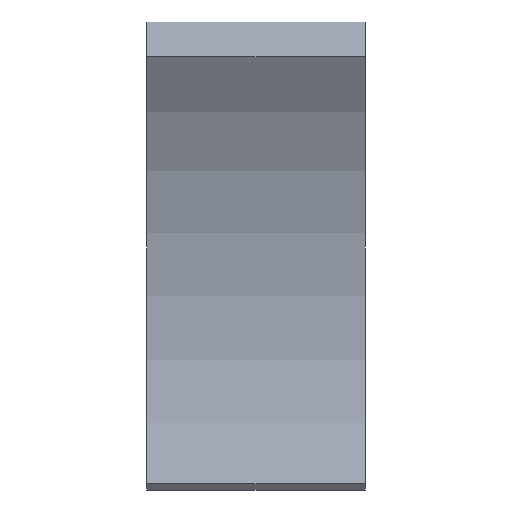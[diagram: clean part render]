
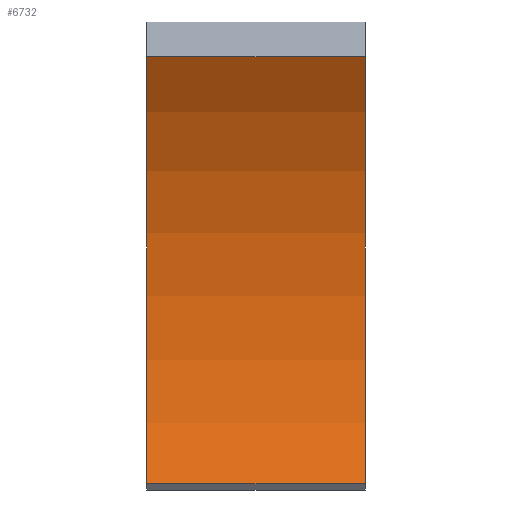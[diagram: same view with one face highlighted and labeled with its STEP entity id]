
A CAD part, front view. The second image highlights one B-rep face of the part: STEP entity #6732.
In plain terms, the highlighted cylindrical face has radius 26.5 mm (diameter 53 mm), a partial arc.
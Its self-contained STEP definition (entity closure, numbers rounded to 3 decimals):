
#72 = PLANE('',#73);
#73 = AXIS2_PLACEMENT_3D('',#74,#75,#76);
#74 = CARTESIAN_POINT('',(-14.,0.,0.));
#75 = DIRECTION('',(1.,0.,0.));
#76 = DIRECTION('',(0.,1.,0.));
#126 = PLANE('',#127);
#127 = AXIS2_PLACEMENT_3D('',#128,#129,#130);
#128 = CARTESIAN_POINT('',(-26.,0.,0.));
#129 = DIRECTION('',(1.,0.,0.));
#130 = DIRECTION('',(0.,1.,0.));
#2527 = VERTEX_POINT('',#2528);
#2528 = CARTESIAN_POINT('',(-26.,22.225,14.433));
#2541 = PLANE('',#2542);
#2542 = AXIS2_PLACEMENT_3D('',#2543,#2544,#2545);
#2543 = CARTESIAN_POINT('',(-27.,35.224,22.875));
#2544 = DIRECTION('',(0.,0.545,-0.839));
#2545 = DIRECTION('',(0.,-0.839,-0.545));
#2552 = EDGE_CURVE('',#2527,#2553,#2555,.T.);
#2553 = VERTEX_POINT('',#2554);
#2554 = CARTESIAN_POINT('',(-26.,24.902,-9.064));
#2555 = SURFACE_CURVE('',#2556,(#2561,#2572),.PCURVE_S1.);
#2556 = CIRCLE('',#2557,26.5);
#2557 = AXIS2_PLACEMENT_3D('',#2558,#2559,#2560);
#2558 = CARTESIAN_POINT('',(-26.,0.,0.));
#2559 = DIRECTION('',(-1.,-0.,0.));
#2560 = DIRECTION('',(0.,-1.,0.));
#2561 = PCURVE('',#126,#2562);
#2562 = DEFINITIONAL_REPRESENTATION('',(#2563),#2571);
#2563 = ( BOUNDED_CURVE() B_SPLINE_CURVE(2,(#2564,#2565,#2566,#2567,
#2568,#2569,#2570),.UNSPECIFIED.,.T.,.F.) B_SPLINE_CURVE_WITH_KNOTS((1,2
    ,2,2,2,1),(-2.094,0.,2.094,4.189,
6.283,8.378),.UNSPECIFIED.) CURVE() 
GEOMETRIC_REPRESENTATION_ITEM() RATIONAL_B_SPLINE_CURVE((1.,0.5,1.,0.5,
1.,0.5,1.)) REPRESENTATION_ITEM('') );
#2564 = CARTESIAN_POINT('',(-26.5,0.));
#2565 = CARTESIAN_POINT('',(-26.5,45.899));
#2566 = CARTESIAN_POINT('',(13.25,22.95));
#2567 = CARTESIAN_POINT('',(53.,0.));
#2568 = CARTESIAN_POINT('',(13.25,-22.95));
#2569 = CARTESIAN_POINT('',(-26.5,-45.899));
#2570 = CARTESIAN_POINT('',(-26.5,0.));
#2571 = ( GEOMETRIC_REPRESENTATION_CONTEXT(2) 
PARAMETRIC_REPRESENTATION_CONTEXT() REPRESENTATION_CONTEXT('2D SPACE',''
  ) );
#2572 = PCURVE('',#2573,#2578);
#2573 = CYLINDRICAL_SURFACE('',#2574,26.5);
#2574 = AXIS2_PLACEMENT_3D('',#2575,#2576,#2577);
#2575 = CARTESIAN_POINT('',(-27.,0.,0.));
#2576 = DIRECTION('',(-1.,-0.,-0.));
#2577 = DIRECTION('',(0.,-1.,0.));
#2578 = DEFINITIONAL_REPRESENTATION('',(#2579),#2583);
#2579 = LINE('',#2580,#2581);
#2580 = CARTESIAN_POINT('',(-6.283,-1.));
#2581 = VECTOR('',#2582,1.);
#2582 = DIRECTION('',(1.,-0.));
#2583 = ( GEOMETRIC_REPRESENTATION_CONTEXT(2) 
PARAMETRIC_REPRESENTATION_CONTEXT() REPRESENTATION_CONTEXT('2D SPACE',''
  ) );
#2600 = PLANE('',#2601);
#2601 = AXIS2_PLACEMENT_3D('',#2602,#2603,#2604);
#2602 = CARTESIAN_POINT('',(-27.,0.,0.));
#2603 = DIRECTION('',(0.,0.342,0.94));
#2604 = DIRECTION('',(0.,0.94,-0.342));
#5212 = VERTEX_POINT('',#5213);
#5213 = CARTESIAN_POINT('',(-14.,22.225,14.433));
#5232 = EDGE_CURVE('',#5212,#5233,#5235,.T.);
#5233 = VERTEX_POINT('',#5234);
#5234 = CARTESIAN_POINT('',(-14.,24.902,-9.064));
#5235 = SURFACE_CURVE('',#5236,(#5241,#5252),.PCURVE_S1.);
#5236 = CIRCLE('',#5237,26.5);
#5237 = AXIS2_PLACEMENT_3D('',#5238,#5239,#5240);
#5238 = CARTESIAN_POINT('',(-14.,0.,0.));
#5239 = DIRECTION('',(-1.,-0.,0.));
#5240 = DIRECTION('',(0.,-1.,0.));
#5241 = PCURVE('',#72,#5242);
#5242 = DEFINITIONAL_REPRESENTATION('',(#5243),#5251);
#5243 = ( BOUNDED_CURVE() B_SPLINE_CURVE(2,(#5244,#5245,#5246,#5247,
#5248,#5249,#5250),.UNSPECIFIED.,.T.,.F.) B_SPLINE_CURVE_WITH_KNOTS((1,2
    ,2,2,2,1),(-2.094,0.,2.094,4.189,
6.283,8.378),.UNSPECIFIED.) CURVE() 
GEOMETRIC_REPRESENTATION_ITEM() RATIONAL_B_SPLINE_CURVE((1.,0.5,1.,0.5,
1.,0.5,1.)) REPRESENTATION_ITEM('') );
#5244 = CARTESIAN_POINT('',(-26.5,0.));
#5245 = CARTESIAN_POINT('',(-26.5,45.899));
#5246 = CARTESIAN_POINT('',(13.25,22.95));
#5247 = CARTESIAN_POINT('',(53.,0.));
#5248 = CARTESIAN_POINT('',(13.25,-22.95));
#5249 = CARTESIAN_POINT('',(-26.5,-45.899));
#5250 = CARTESIAN_POINT('',(-26.5,0.));
#5251 = ( GEOMETRIC_REPRESENTATION_CONTEXT(2) 
PARAMETRIC_REPRESENTATION_CONTEXT() REPRESENTATION_CONTEXT('2D SPACE',''
  ) );
#5252 = PCURVE('',#2573,#5253);
#5253 = DEFINITIONAL_REPRESENTATION('',(#5254),#5258);
#5254 = LINE('',#5255,#5256);
#5255 = CARTESIAN_POINT('',(-6.283,-13.));
#5256 = VECTOR('',#5257,1.);
#5257 = DIRECTION('',(1.,-0.));
#5258 = ( GEOMETRIC_REPRESENTATION_CONTEXT(2) 
PARAMETRIC_REPRESENTATION_CONTEXT() REPRESENTATION_CONTEXT('2D SPACE',''
  ) );
#6714 = EDGE_CURVE('',#5233,#2553,#6715,.T.);
#6715 = SURFACE_CURVE('',#6716,(#6720,#6726),.PCURVE_S1.);
#6716 = LINE('',#6717,#6718);
#6717 = CARTESIAN_POINT('',(-27.,24.902,-9.064));
#6718 = VECTOR('',#6719,1.);
#6719 = DIRECTION('',(-1.,-0.,-0.));
#6720 = PCURVE('',#2600,#6721);
#6721 = DEFINITIONAL_REPRESENTATION('',(#6722),#6725);
#6722 = B_SPLINE_CURVE_WITH_KNOTS('',1,(#6723,#6724),.UNSPECIFIED.,.F.,
  .F.,(2,2),(-14.,0.),.PIECEWISE_BEZIER_KNOTS.);
#6723 = CARTESIAN_POINT('',(26.5,-14.));
#6724 = CARTESIAN_POINT('',(26.5,0.));
#6725 = ( GEOMETRIC_REPRESENTATION_CONTEXT(2) 
PARAMETRIC_REPRESENTATION_CONTEXT() REPRESENTATION_CONTEXT('2D SPACE',''
  ) );
#6726 = PCURVE('',#2573,#6727);
#6727 = DEFINITIONAL_REPRESENTATION('',(#6728),#6731);
#6728 = B_SPLINE_CURVE_WITH_KNOTS('',1,(#6729,#6730),.UNSPECIFIED.,.F.,
  .F.,(2,2),(-14.,0.),.PIECEWISE_BEZIER_KNOTS.);
#6729 = CARTESIAN_POINT('',(-2.793,-14.));
#6730 = CARTESIAN_POINT('',(-2.793,0.));
#6731 = ( GEOMETRIC_REPRESENTATION_CONTEXT(2) 
PARAMETRIC_REPRESENTATION_CONTEXT() REPRESENTATION_CONTEXT('2D SPACE',''
  ) );
#6732 = ADVANCED_FACE('',(#6733),#2573,.F.);
#6733 = FACE_BOUND('',#6734,.T.);
#6734 = EDGE_LOOP('',(#6735,#6736,#6755,#6756));
#6735 = ORIENTED_EDGE('',*,*,#5232,.F.);
#6736 = ORIENTED_EDGE('',*,*,#6737,.T.);
#6737 = EDGE_CURVE('',#5212,#2527,#6738,.T.);
#6738 = SURFACE_CURVE('',#6739,(#6743,#6749),.PCURVE_S1.);
#6739 = LINE('',#6740,#6741);
#6740 = CARTESIAN_POINT('',(-27.,22.225,14.433));
#6741 = VECTOR('',#6742,1.);
#6742 = DIRECTION('',(-1.,-0.,-0.));
#6743 = PCURVE('',#2573,#6744);
#6744 = DEFINITIONAL_REPRESENTATION('',(#6745),#6748);
#6745 = B_SPLINE_CURVE_WITH_KNOTS('',1,(#6746,#6747),.UNSPECIFIED.,.F.,
  .F.,(2,2),(-14.,0.),.PIECEWISE_BEZIER_KNOTS.);
#6746 = CARTESIAN_POINT('',(-3.718,-14.));
#6747 = CARTESIAN_POINT('',(-3.718,0.));
#6748 = ( GEOMETRIC_REPRESENTATION_CONTEXT(2) 
PARAMETRIC_REPRESENTATION_CONTEXT() REPRESENTATION_CONTEXT('2D SPACE',''
  ) );
#6749 = PCURVE('',#2541,#6750);
#6750 = DEFINITIONAL_REPRESENTATION('',(#6751),#6754);
#6751 = B_SPLINE_CURVE_WITH_KNOTS('',1,(#6752,#6753),.UNSPECIFIED.,.F.,
  .F.,(2,2),(-14.,0.),.PIECEWISE_BEZIER_KNOTS.);
#6752 = CARTESIAN_POINT('',(15.5,-14.));
#6753 = CARTESIAN_POINT('',(15.5,0.));
#6754 = ( GEOMETRIC_REPRESENTATION_CONTEXT(2) 
PARAMETRIC_REPRESENTATION_CONTEXT() REPRESENTATION_CONTEXT('2D SPACE',''
  ) );
#6755 = ORIENTED_EDGE('',*,*,#2552,.T.);
#6756 = ORIENTED_EDGE('',*,*,#6714,.F.);
